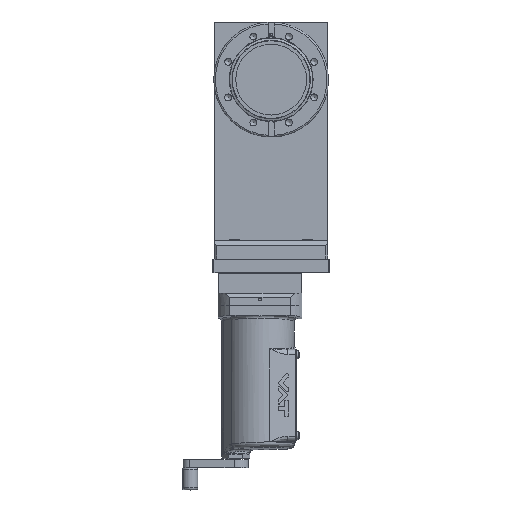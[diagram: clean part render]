
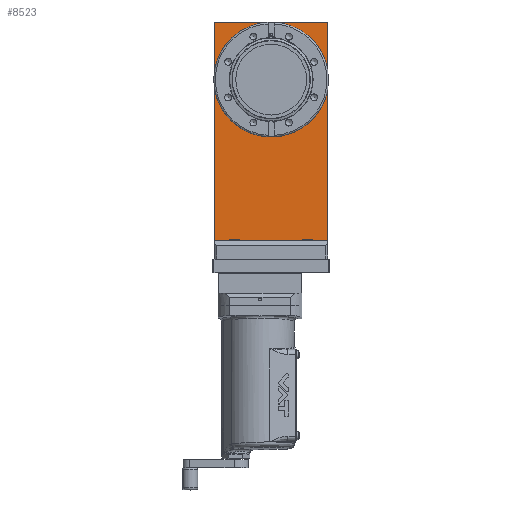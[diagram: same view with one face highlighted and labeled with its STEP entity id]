
A CAD part, top view. The second image highlights one B-rep face of the part: STEP entity #8523.
In plain terms, the highlighted planar face has unit normal (0, 0, 1).
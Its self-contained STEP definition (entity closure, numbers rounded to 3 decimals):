
#3562=LINE('',#28474,#4924);
#3567=LINE('',#28489,#4929);
#3569=LINE('',#28493,#4931);
#3572=LINE('',#28498,#4934);
#4924=VECTOR('',#23428,1.);
#4929=VECTOR('',#23435,1.);
#4931=VECTOR('',#23439,1.);
#4934=VECTOR('',#23444,1.);
#7028=PLANE('',#20832);
#8523=ADVANCED_FACE('',(#9482,#9483),#7028,.T.);
#9482=FACE_BOUND('',#10423,.T.);
#9483=FACE_BOUND('',#10424,.T.);
#10423=EDGE_LOOP('',(#12829,#12830,#12831,#12832));
#10424=EDGE_LOOP('',(#12833));
#12829=ORIENTED_EDGE('',*,*,#18291,.F.);
#12830=ORIENTED_EDGE('',*,*,#18297,.T.);
#12831=ORIENTED_EDGE('',*,*,#18302,.T.);
#12832=ORIENTED_EDGE('',*,*,#18299,.T.);
#12833=ORIENTED_EDGE('',*,*,#18304,.F.);
#16387=VERTEX_POINT('',#28473);
#16388=VERTEX_POINT('',#28475);
#16392=VERTEX_POINT('',#28488);
#16394=VERTEX_POINT('',#28494);
#16396=VERTEX_POINT('',#28503);
#18291=EDGE_CURVE('',#16387,#16388,#3562,.T.);
#18297=EDGE_CURVE('',#16387,#16392,#3567,.T.);
#18299=EDGE_CURVE('',#16394,#16388,#3569,.T.);
#18302=EDGE_CURVE('',#16392,#16394,#3572,.T.);
#18304=EDGE_CURVE('',#16396,#16396,#19907,.T.);
#19907=CIRCLE('',#20830,35.05);
#20830=AXIS2_PLACEMENT_3D('',#28502,#23449,#23450);
#20832=AXIS2_PLACEMENT_3D('',#28505,#23453,#23454);
#23428=DIRECTION('',(-1.,0.,0.));
#23435=DIRECTION('',(0.,1.,0.));
#23439=DIRECTION('',(0.,-1.,0.));
#23444=DIRECTION('',(-1.,0.,0.));
#23449=DIRECTION('',(0.,0.,1.));
#23450=DIRECTION('',(1.,0.,0.));
#23453=DIRECTION('',(0.,0.,1.));
#23454=DIRECTION('',(1.,0.,0.));
#28473=CARTESIAN_POINT('',(56.,-177.8,26.975));
#28474=CARTESIAN_POINT('',(0.,-177.8,26.975));
#28475=CARTESIAN_POINT('',(-56.,-177.8,26.975));
#28488=CARTESIAN_POINT('',(56.,57.05,26.975));
#28489=CARTESIAN_POINT('',(56.,-179.1,26.975));
#28493=CARTESIAN_POINT('',(-56.,57.05,26.975));
#28494=CARTESIAN_POINT('',(-56.,57.05,26.975));
#28498=CARTESIAN_POINT('',(56.,57.05,26.975));
#28502=CARTESIAN_POINT('',(0.,0.,26.975));
#28503=CARTESIAN_POINT('',(35.05,0.,26.975));
#28505=CARTESIAN_POINT('',(0.,0.,26.975));
